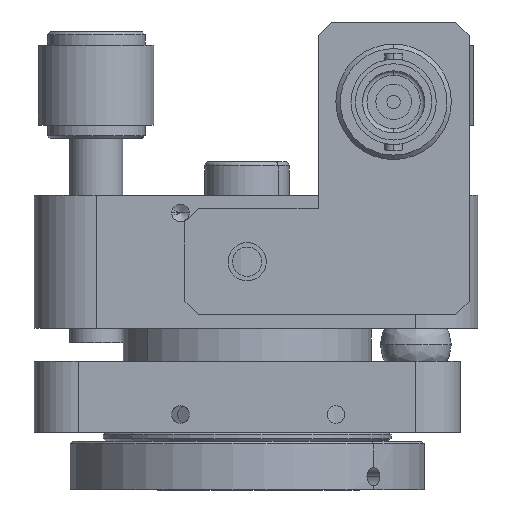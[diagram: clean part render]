
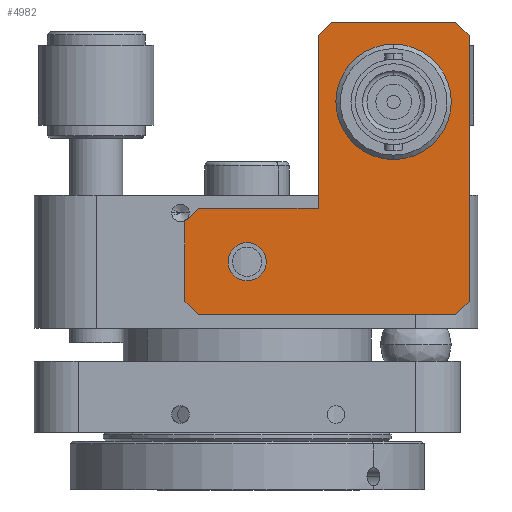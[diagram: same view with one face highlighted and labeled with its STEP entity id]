
A CAD part, front view. The second image highlights one B-rep face of the part: STEP entity #4982.
In plain terms, the highlighted planar face has unit normal (0, -1, 0).
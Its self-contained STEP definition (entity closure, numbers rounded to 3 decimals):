
#64 = DIRECTION ( 'NONE',  ( 0., 0., -1. ) ) ;
#113 = CARTESIAN_POINT ( 'NONE',  ( -12.649, -46.036, 46.525 ) ) ;
#318 = EDGE_LOOP ( 'NONE', ( #6346, #6847 ) ) ;
#449 = VECTOR ( 'NONE', #1166, 1000. ) ;
#467 = DIRECTION ( 'NONE',  ( 1., 0., 0. ) ) ;
#509 = ORIENTED_EDGE ( 'NONE', *, *, #8270, .T. ) ;
#573 = VERTEX_POINT ( 'NONE', #113 ) ;
#610 = LINE ( 'NONE', #4671, #5290 ) ;
#620 = VERTEX_POINT ( 'NONE', #2680 ) ;
#651 = VECTOR ( 'NONE', #64, 1000. ) ;
#714 = CARTESIAN_POINT ( 'NONE',  ( -4.999, -46.036, 52.525 ) ) ;
#717 = EDGE_CURVE ( 'NONE', #2338, #3053, #8664, .T. ) ;
#921 = EDGE_LOOP ( 'NONE', ( #8975, #2181 ) ) ;
#947 = CARTESIAN_POINT ( 'NONE',  ( -14.149, -46.036, 57.025 ) ) ;
#1038 = VERTEX_POINT ( 'NONE', #5183 ) ;
#1046 = VECTOR ( 'NONE', #3862, 1000. ) ;
#1075 = LINE ( 'NONE', #6646, #4248 ) ;
#1166 = DIRECTION ( 'NONE',  ( -0.707, 0., -0.707 ) ) ;
#1170 = LINE ( 'NONE', #6579, #651 ) ;
#1184 = DIRECTION ( 'NONE',  ( 0., -1., 0. ) ) ;
#1253 = LINE ( 'NONE', #2490, #6175 ) ;
#1521 = AXIS2_PLACEMENT_3D ( 'NONE', #5476, #10328, #2225 ) ;
#1526 = CARTESIAN_POINT ( 'NONE',  ( 2.351, -46.036, 79.525 ) ) ;
#1627 = AXIS2_PLACEMENT_3D ( 'NONE', #7642, #2078, #10185 ) ;
#1734 = VECTOR ( 'NONE', #7901, 1000. ) ;
#1921 = PLANE ( 'NONE',  #5875 ) ;
#1945 = EDGE_CURVE ( 'NONE', #8647, #8846, #7825, .T. ) ;
#2078 = DIRECTION ( 'NONE',  ( 0., -1., 0. ) ) ;
#2181 = ORIENTED_EDGE ( 'NONE', *, *, #5687, .F. ) ;
#2225 = DIRECTION ( 'NONE',  ( 1., 0., 0. ) ) ;
#2260 = CARTESIAN_POINT ( 'NONE',  ( 0.851, -46.036, 79.525 ) ) ;
#2338 = VERTEX_POINT ( 'NONE', #5068 ) ;
#2490 = CARTESIAN_POINT ( 'NONE',  ( 17.851, -46.036, 48.025 ) ) ;
#2680 = CARTESIAN_POINT ( 'NONE',  ( 4.351, -46.036, 70.525 ) ) ;
#2889 = LINE ( 'NONE', #8686, #7079 ) ;
#3053 = VERTEX_POINT ( 'NONE', #9354 ) ;
#3083 = CARTESIAN_POINT ( 'NONE',  ( -14.149, -46.036, 58.525 ) ) ;
#3126 = FACE_BOUND ( 'NONE', #921, .T. ) ;
#3368 = LINE ( 'NONE', #10124, #449 ) ;
#3523 = CARTESIAN_POINT ( 'NONE',  ( -12.649, -46.036, 58.525 ) ) ;
#3785 = ORIENTED_EDGE ( 'NONE', *, *, #4082, .T. ) ;
#3793 = EDGE_CURVE ( 'NONE', #5208, #3979, #610, .T. ) ;
#3862 = DIRECTION ( 'NONE',  ( -0.707, 0., 0.707 ) ) ;
#3907 = LINE ( 'NONE', #3083, #6044 ) ;
#3936 = CARTESIAN_POINT ( 'NONE',  ( 16.351, -46.036, 79.525 ) ) ;
#3979 = VERTEX_POINT ( 'NONE', #4220 ) ;
#4082 = EDGE_CURVE ( 'NONE', #5780, #573, #2889, .T. ) ;
#4107 = ORIENTED_EDGE ( 'NONE', *, *, #717, .T. ) ;
#4184 = ORIENTED_EDGE ( 'NONE', *, *, #4187, .T. ) ;
#4187 = EDGE_CURVE ( 'NONE', #5570, #9240, #3907, .T. ) ;
#4220 = CARTESIAN_POINT ( 'NONE',  ( 0.851, -46.036, 78.025 ) ) ;
#4248 = VECTOR ( 'NONE', #5086, 1000. ) ;
#4639 = CARTESIAN_POINT ( 'NONE',  ( 17.851, -46.036, 48.025 ) ) ;
#4671 = CARTESIAN_POINT ( 'NONE',  ( 0.851, -46.036, 78.025 ) ) ;
#4909 = AXIS2_PLACEMENT_3D ( 'NONE', #6024, #1184, #6811 ) ;
#4946 = CARTESIAN_POINT ( 'NONE',  ( 0.851, -46.036, 58.525 ) ) ;
#4982 = ADVANCED_FACE ( 'NONE', ( #8325, #7953, #3126 ), #1921, .F. ) ;
#5053 = VERTEX_POINT ( 'NONE', #4639 ) ;
#5060 = DIRECTION ( 'NONE',  ( 0., -1., 0. ) ) ;
#5068 = CARTESIAN_POINT ( 'NONE',  ( 17.851, -46.036, 78.025 ) ) ;
#5086 = DIRECTION ( 'NONE',  ( 0., 0., -1. ) ) ;
#5183 = CARTESIAN_POINT ( 'NONE',  ( 14.351, -46.036, 70.525 ) ) ;
#5208 = VERTEX_POINT ( 'NONE', #1526 ) ;
#5290 = VECTOR ( 'NONE', #10386, 1000. ) ;
#5307 = EDGE_CURVE ( 'NONE', #5053, #2338, #9534, .T. ) ;
#5368 = EDGE_CURVE ( 'NONE', #3979, #5570, #1170, .T. ) ;
#5476 = CARTESIAN_POINT ( 'NONE',  ( -7.149, -46.036, 52.525 ) ) ;
#5570 = VERTEX_POINT ( 'NONE', #4946 ) ;
#5687 = EDGE_CURVE ( 'NONE', #1038, #620, #9408, .T. ) ;
#5780 = VERTEX_POINT ( 'NONE', #7669 ) ;
#5799 = CARTESIAN_POINT ( 'NONE',  ( 16.351, -46.036, 46.525 ) ) ;
#5875 = AXIS2_PLACEMENT_3D ( 'NONE', #5984, #5912, #10068 ) ;
#5896 = ORIENTED_EDGE ( 'NONE', *, *, #5307, .T. ) ;
#5912 = DIRECTION ( 'NONE',  ( 0., 1., 0. ) ) ;
#5984 = CARTESIAN_POINT ( 'NONE',  ( 17.851, -46.036, 46.525 ) ) ;
#6024 = CARTESIAN_POINT ( 'NONE',  ( -7.149, -46.036, 52.525 ) ) ;
#6044 = VECTOR ( 'NONE', #6278, 1000. ) ;
#6113 = EDGE_CURVE ( 'NONE', #573, #10166, #8219, .T. ) ;
#6159 = VECTOR ( 'NONE', #467, 1000. ) ;
#6175 = VECTOR ( 'NONE', #8191, 1000. ) ;
#6278 = DIRECTION ( 'NONE',  ( -1., 0., 0. ) ) ;
#6346 = ORIENTED_EDGE ( 'NONE', *, *, #8895, .F. ) ;
#6476 = VECTOR ( 'NONE', #8161, 1000. ) ;
#6579 = CARTESIAN_POINT ( 'NONE',  ( 0.851, -46.036, 58.525 ) ) ;
#6646 = CARTESIAN_POINT ( 'NONE',  ( -14.149, -46.036, 46.525 ) ) ;
#6740 = CARTESIAN_POINT ( 'NONE',  ( 17.851, -46.036, 46.525 ) ) ;
#6811 = DIRECTION ( 'NONE',  ( 1., 0., 0. ) ) ;
#6847 = ORIENTED_EDGE ( 'NONE', *, *, #1945, .F. ) ;
#7079 = VECTOR ( 'NONE', #9458, 1000. ) ;
#7415 = CARTESIAN_POINT ( 'NONE',  ( 9.351, -46.036, 70.525 ) ) ;
#7594 = EDGE_CURVE ( 'NONE', #10166, #5053, #1253, .T. ) ;
#7642 = CARTESIAN_POINT ( 'NONE',  ( 9.351, -46.036, 70.525 ) ) ;
#7669 = CARTESIAN_POINT ( 'NONE',  ( -14.149, -46.036, 48.025 ) ) ;
#7825 = CIRCLE ( 'NONE', #1521, 2.15 ) ;
#7901 = DIRECTION ( 'NONE',  ( -1., 0., 0. ) ) ;
#7946 = CIRCLE ( 'NONE', #10221, 5. ) ;
#7953 = FACE_BOUND ( 'NONE', #318, .T. ) ;
#8161 = DIRECTION ( 'NONE',  ( 0., 0., 1. ) ) ;
#8191 = DIRECTION ( 'NONE',  ( 0.707, 0., 0.707 ) ) ;
#8219 = LINE ( 'NONE', #6740, #6159 ) ;
#8270 = EDGE_CURVE ( 'NONE', #3053, #5208, #8606, .T. ) ;
#8325 = FACE_OUTER_BOUND ( 'NONE', #8997, .T. ) ;
#8382 = DIRECTION ( 'NONE',  ( 1., 0., 0. ) ) ;
#8386 = CARTESIAN_POINT ( 'NONE',  ( -9.299, -46.036, 52.525 ) ) ;
#8606 = LINE ( 'NONE', #2260, #1734 ) ;
#8647 = VERTEX_POINT ( 'NONE', #714 ) ;
#8664 = LINE ( 'NONE', #3936, #1046 ) ;
#8686 = CARTESIAN_POINT ( 'NONE',  ( -12.649, -46.036, 46.525 ) ) ;
#8846 = VERTEX_POINT ( 'NONE', #8386 ) ;
#8895 = EDGE_CURVE ( 'NONE', #8846, #8647, #9225, .T. ) ;
#8948 = CARTESIAN_POINT ( 'NONE',  ( 17.851, -46.036, 79.525 ) ) ;
#8975 = ORIENTED_EDGE ( 'NONE', *, *, #9274, .F. ) ;
#8997 = EDGE_LOOP ( 'NONE', ( #509, #10511, #9400, #4184, #9975, #9129, #3785, #10334, #9894, #5896, #4107 ) ) ;
#9037 = EDGE_CURVE ( 'NONE', #9240, #10263, #3368, .T. ) ;
#9129 = ORIENTED_EDGE ( 'NONE', *, *, #10235, .T. ) ;
#9225 = CIRCLE ( 'NONE', #4909, 2.15 ) ;
#9240 = VERTEX_POINT ( 'NONE', #3523 ) ;
#9274 = EDGE_CURVE ( 'NONE', #620, #1038, #7946, .T. ) ;
#9354 = CARTESIAN_POINT ( 'NONE',  ( 16.351, -46.036, 79.525 ) ) ;
#9400 = ORIENTED_EDGE ( 'NONE', *, *, #5368, .T. ) ;
#9408 = CIRCLE ( 'NONE', #1627, 5. ) ;
#9458 = DIRECTION ( 'NONE',  ( 0.707, 0., -0.707 ) ) ;
#9534 = LINE ( 'NONE', #8948, #6476 ) ;
#9894 = ORIENTED_EDGE ( 'NONE', *, *, #7594, .T. ) ;
#9975 = ORIENTED_EDGE ( 'NONE', *, *, #9037, .T. ) ;
#10068 = DIRECTION ( 'NONE',  ( -1., 0., 0. ) ) ;
#10124 = CARTESIAN_POINT ( 'NONE',  ( -14.149, -46.036, 57.025 ) ) ;
#10166 = VERTEX_POINT ( 'NONE', #5799 ) ;
#10185 = DIRECTION ( 'NONE',  ( 1., 0., 0. ) ) ;
#10221 = AXIS2_PLACEMENT_3D ( 'NONE', #7415, #5060, #8382 ) ;
#10235 = EDGE_CURVE ( 'NONE', #10263, #5780, #1075, .T. ) ;
#10263 = VERTEX_POINT ( 'NONE', #947 ) ;
#10328 = DIRECTION ( 'NONE',  ( 0., -1., 0. ) ) ;
#10334 = ORIENTED_EDGE ( 'NONE', *, *, #6113, .T. ) ;
#10386 = DIRECTION ( 'NONE',  ( -0.707, 0., -0.707 ) ) ;
#10511 = ORIENTED_EDGE ( 'NONE', *, *, #3793, .T. ) ;
